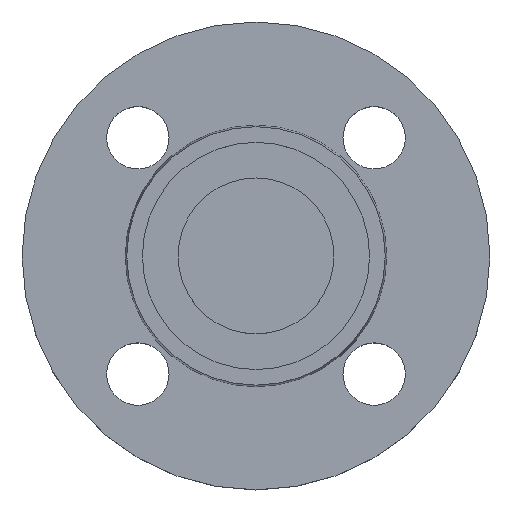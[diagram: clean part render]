
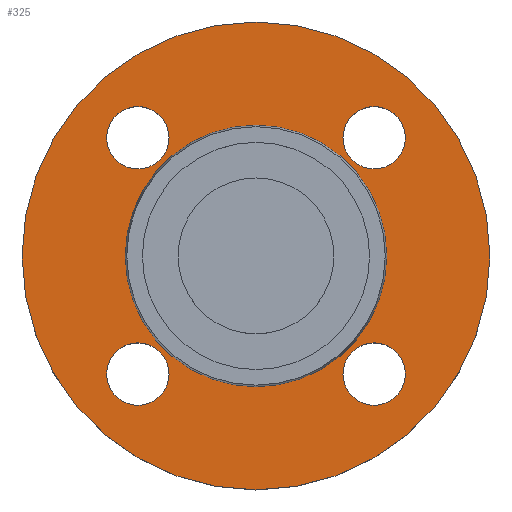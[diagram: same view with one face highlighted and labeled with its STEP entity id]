
A CAD part, top view. The second image highlights one B-rep face of the part: STEP entity #325.
In plain terms, the highlighted planar face has unit normal (0, 0, 1).
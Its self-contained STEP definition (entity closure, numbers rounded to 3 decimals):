
#1 = AXIS2_PLACEMENT_3D ( 'NONE', #579, #585, #586 ) ;
#4 = EDGE_CURVE ( 'NONE', #517, #422, #258, .T. ) ;
#19 = DIRECTION ( 'NONE',  ( 0., 0., -1. ) ) ;
#24 = DIRECTION ( 'NONE',  ( 1., 0., 0. ) ) ;
#26 = CIRCLE ( 'NONE', #390, 52.5 ) ;
#27 = CARTESIAN_POINT ( 'NONE',  ( 19.517, 26.517, -2. ) ) ;
#30 = CARTESIAN_POINT ( 'NONE',  ( 26.517, -26.517, -2. ) ) ;
#36 = DIRECTION ( 'NONE',  ( 1., 0., 0. ) ) ;
#40 = CARTESIAN_POINT ( 'NONE',  ( 52.5, 0., -2. ) ) ;
#46 = CIRCLE ( 'NONE', #330, 29.353 ) ;
#58 = CARTESIAN_POINT ( 'NONE',  ( 19.517, -26.517, -2. ) ) ;
#64 = EDGE_CURVE ( 'NONE', #577, #545, #26, .T. ) ;
#65 = DIRECTION ( 'NONE',  ( 0., 0., -1. ) ) ;
#68 = CARTESIAN_POINT ( 'NONE',  ( 26.517, -26.517, -2. ) ) ;
#72 = DIRECTION ( 'NONE',  ( 1., 0., 0. ) ) ;
#73 = AXIS2_PLACEMENT_3D ( 'NONE', #176, #180, #150 ) ;
#75 = CIRCLE ( 'NONE', #73, 7. ) ;
#77 = CARTESIAN_POINT ( 'NONE',  ( 33.517, -26.517, -2. ) ) ;
#93 = CARTESIAN_POINT ( 'NONE',  ( 26.517, 26.517, -2. ) ) ;
#95 = DIRECTION ( 'NONE',  ( 0., 0., -1. ) ) ;
#96 = DIRECTION ( 'NONE',  ( 1., 0., 0. ) ) ;
#97 = CARTESIAN_POINT ( 'NONE',  ( 0., 0., -2. ) ) ;
#99 = DIRECTION ( 'NONE',  ( 0., 0., -1. ) ) ;
#101 = DIRECTION ( 'NONE',  ( 0., 0., -1. ) ) ;
#103 = DIRECTION ( 'NONE',  ( -1., 0., 0. ) ) ;
#104 = AXIS2_PLACEMENT_3D ( 'NONE', #664, #634, #630 ) ;
#105 = CARTESIAN_POINT ( 'NONE',  ( -29.353, 0., -2. ) ) ;
#107 = CARTESIAN_POINT ( 'NONE',  ( -33.517, -26.517, -2. ) ) ;
#110 = CARTESIAN_POINT ( 'NONE',  ( -19.517, -26.517, -2. ) ) ;
#122 = AXIS2_PLACEMENT_3D ( 'NONE', #194, #99, #36 ) ;
#137 = CARTESIAN_POINT ( 'NONE',  ( -52.5, 0., -2. ) ) ;
#144 = CARTESIAN_POINT ( 'NONE',  ( -26.517, 26.517, -2. ) ) ;
#145 = DIRECTION ( 'NONE',  ( 0., 0., -1. ) ) ;
#150 = DIRECTION ( 'NONE',  ( 1., 0., 0. ) ) ;
#153 = FACE_BOUND ( 'NONE', #580, .T. ) ;
#154 = FACE_BOUND ( 'NONE', #486, .T. ) ;
#158 = FACE_BOUND ( 'NONE', #445, .T. ) ;
#162 = DIRECTION ( 'NONE',  ( 1., 0., 0. ) ) ;
#167 = CIRCLE ( 'NONE', #203, 7. ) ;
#171 = CARTESIAN_POINT ( 'NONE',  ( 29.353, 0., -2. ) ) ;
#173 = CARTESIAN_POINT ( 'NONE',  ( -19.517, 26.517, -2. ) ) ;
#176 = CARTESIAN_POINT ( 'NONE',  ( -26.517, -26.517, -2. ) ) ;
#178 = EDGE_CURVE ( 'NONE', #422, #517, #46, .T. ) ;
#180 = DIRECTION ( 'NONE',  ( 0., 0., -1. ) ) ;
#194 = CARTESIAN_POINT ( 'NONE',  ( -26.517, 26.517, -2. ) ) ;
#203 = AXIS2_PLACEMENT_3D ( 'NONE', #598, #589, #588 ) ;
#206 = CIRCLE ( 'NONE', #122, 7. ) ;
#210 = CARTESIAN_POINT ( 'NONE',  ( -33.517, 26.517, -2. ) ) ;
#229 = DIRECTION ( 'NONE',  ( -1., 0., 0. ) ) ;
#232 = DIRECTION ( 'NONE',  ( 0., 0., -1. ) ) ;
#233 = CARTESIAN_POINT ( 'NONE',  ( 33.517, 26.517, -2. ) ) ;
#234 = CARTESIAN_POINT ( 'NONE',  ( 0., 0., -2. ) ) ;
#253 = AXIS2_PLACEMENT_3D ( 'NONE', #68, #65, #72 ) ;
#254 = CIRCLE ( 'NONE', #253, 7. ) ;
#256 = AXIS2_PLACEMENT_3D ( 'NONE', #553, #557, #559 ) ;
#257 = AXIS2_PLACEMENT_3D ( 'NONE', #30, #19, #24 ) ;
#258 = CIRCLE ( 'NONE', #256, 29.353 ) ;
#259 = EDGE_CURVE ( 'NONE', #447, #457, #360, .T. ) ;
#261 = AXIS2_PLACEMENT_3D ( 'NONE', #93, #95, #96 ) ;
#264 = CIRCLE ( 'NONE', #257, 7. ) ;
#265 = CIRCLE ( 'NONE', #269, 52.5 ) ;
#266 = EDGE_CURVE ( 'NONE', #545, #577, #265, .T. ) ;
#269 = AXIS2_PLACEMENT_3D ( 'NONE', #97, #101, #103 ) ;
#271 = CIRCLE ( 'NONE', #104, 7. ) ;
#274 = VERTEX_POINT ( 'NONE', #107 ) ;
#297 = VERTEX_POINT ( 'NONE', #110 ) ;
#304 = EDGE_CURVE ( 'NONE', #541, #526, #388, .T. ) ;
#325 = ADVANCED_FACE ( 'NONE', ( #158, #154, #153, #529, #539, #542 ), #566, .T. ) ;
#330 = AXIS2_PLACEMENT_3D ( 'NONE', #234, #232, #229 ) ;
#352 = ORIENTED_EDGE ( 'NONE', *, *, #425, .T. ) ;
#353 = ORIENTED_EDGE ( 'NONE', *, *, #470, .T. ) ;
#354 = ORIENTED_EDGE ( 'NONE', *, *, #504, .T. ) ;
#355 = ORIENTED_EDGE ( 'NONE', *, *, #401, .T. ) ;
#356 = ORIENTED_EDGE ( 'NONE', *, *, #556, .T. ) ;
#357 = ORIENTED_EDGE ( 'NONE', *, *, #304, .T. ) ;
#358 = ORIENTED_EDGE ( 'NONE', *, *, #650, .T. ) ;
#359 = ORIENTED_EDGE ( 'NONE', *, *, #259, .T. ) ;
#360 = CIRCLE ( 'NONE', #261, 7. ) ;
#361 = ORIENTED_EDGE ( 'NONE', *, *, #178, .T. ) ;
#362 = ORIENTED_EDGE ( 'NONE', *, *, #4, .T. ) ;
#363 = ORIENTED_EDGE ( 'NONE', *, *, #64, .F. ) ;
#364 = ORIENTED_EDGE ( 'NONE', *, *, #266, .F. ) ;
#388 = CIRCLE ( 'NONE', #672, 7. ) ;
#390 = AXIS2_PLACEMENT_3D ( 'NONE', #490, #489, #663 ) ;
#401 = EDGE_CURVE ( 'NONE', #274, #297, #271, .T. ) ;
#422 = VERTEX_POINT ( 'NONE', #105 ) ;
#425 = EDGE_CURVE ( 'NONE', #478, #467, #264, .T. ) ;
#445 = EDGE_LOOP ( 'NONE', ( #352, #353 ) ) ;
#447 = VERTEX_POINT ( 'NONE', #27 ) ;
#457 = VERTEX_POINT ( 'NONE', #233 ) ;
#467 = VERTEX_POINT ( 'NONE', #58 ) ;
#470 = EDGE_CURVE ( 'NONE', #467, #478, #254, .T. ) ;
#478 = VERTEX_POINT ( 'NONE', #77 ) ;
#486 = EDGE_LOOP ( 'NONE', ( #354, #355 ) ) ;
#489 = DIRECTION ( 'NONE',  ( 0., 0., -1. ) ) ;
#490 = CARTESIAN_POINT ( 'NONE',  ( 0., 0., -2. ) ) ;
#504 = EDGE_CURVE ( 'NONE', #297, #274, #75, .T. ) ;
#517 = VERTEX_POINT ( 'NONE', #171 ) ;
#526 = VERTEX_POINT ( 'NONE', #173 ) ;
#529 = FACE_BOUND ( 'NONE', #560, .T. ) ;
#531 = EDGE_LOOP ( 'NONE', ( #361, #362 ) ) ;
#539 = FACE_BOUND ( 'NONE', #531, .T. ) ;
#541 = VERTEX_POINT ( 'NONE', #210 ) ;
#542 = FACE_OUTER_BOUND ( 'NONE', #548, .T. ) ;
#545 = VERTEX_POINT ( 'NONE', #137 ) ;
#548 = EDGE_LOOP ( 'NONE', ( #363, #364 ) ) ;
#553 = CARTESIAN_POINT ( 'NONE',  ( 0., 0., -2. ) ) ;
#556 = EDGE_CURVE ( 'NONE', #526, #541, #206, .T. ) ;
#557 = DIRECTION ( 'NONE',  ( 0., 0., -1. ) ) ;
#559 = DIRECTION ( 'NONE',  ( -1., 0., 0. ) ) ;
#560 = EDGE_LOOP ( 'NONE', ( #358, #359 ) ) ;
#566 = PLANE ( 'NONE',  #1 ) ;
#577 = VERTEX_POINT ( 'NONE', #40 ) ;
#579 = CARTESIAN_POINT ( 'NONE',  ( 29.353, 0., -2. ) ) ;
#580 = EDGE_LOOP ( 'NONE', ( #356, #357 ) ) ;
#585 = DIRECTION ( 'NONE',  ( 0., 0., 1. ) ) ;
#586 = DIRECTION ( 'NONE',  ( 1., 0., 0. ) ) ;
#588 = DIRECTION ( 'NONE',  ( 1., 0., 0. ) ) ;
#589 = DIRECTION ( 'NONE',  ( 0., 0., -1. ) ) ;
#598 = CARTESIAN_POINT ( 'NONE',  ( 26.517, 26.517, -2. ) ) ;
#630 = DIRECTION ( 'NONE',  ( 1., 0., 0. ) ) ;
#634 = DIRECTION ( 'NONE',  ( 0., 0., -1. ) ) ;
#650 = EDGE_CURVE ( 'NONE', #457, #447, #167, .T. ) ;
#663 = DIRECTION ( 'NONE',  ( -1., 0., 0. ) ) ;
#664 = CARTESIAN_POINT ( 'NONE',  ( -26.517, -26.517, -2. ) ) ;
#672 = AXIS2_PLACEMENT_3D ( 'NONE', #144, #145, #162 ) ;
